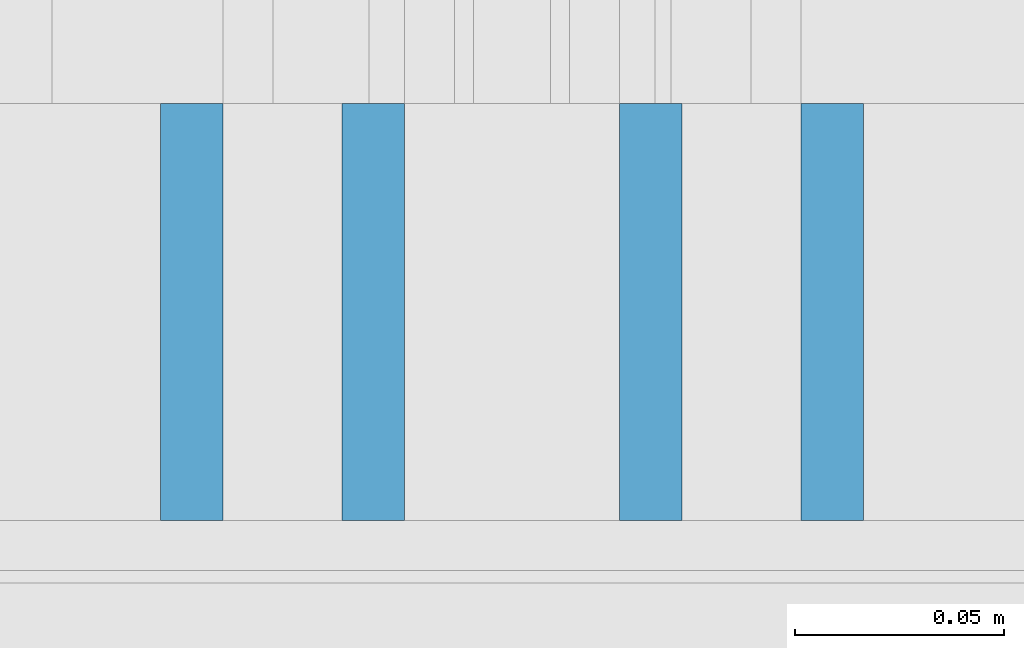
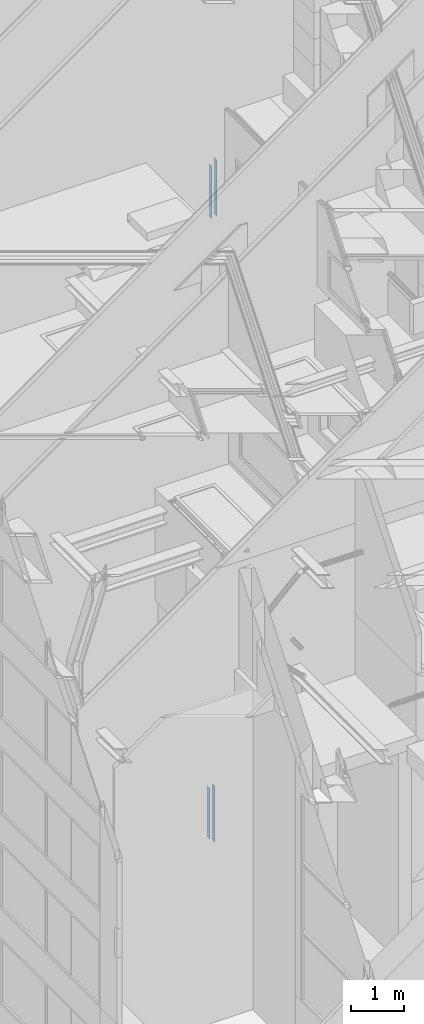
# One storey, part 89 of 583: 4 building element parts, 2 elements without a shape of their own.
"""IFC2X3 building model written with IfcOpenShell, lengths in metres."""

from ifc_helpers import new_model, entity, si_unit, converted_unit, derived_unit, money_unit, direction, frame, origin_with_axes, place, context, subcontext, project, spatial, polyline, outline, extrude, material, type_object, element, aggregate, save


model = new_model("IFC2X3")

# Units and contexts
model_context = context("Model", 3, precision=1e-05, world=origin_with_axes(), true_north=direction((0.0, 1.0)))
body_context = subcontext(model_context, "Body", "Model", "MODEL_VIEW", scale=1.0)
ifc_project = project(units=[si_unit("LENGTHUNIT", "METRE"), si_unit("AREAUNIT", "SQUARE_METRE"), si_unit("VOLUMEUNIT", "CUBIC_METRE"), si_unit("ABSORBEDDOSEUNIT", "GRAY"), si_unit("AMOUNTOFSUBSTANCEUNIT", "MOLE"), si_unit("DOSEEQUIVALENTUNIT", "SIEVERT"), si_unit("ELECTRICCAPACITANCEUNIT", "FARAD"), si_unit("ELECTRICCHARGEUNIT", "COULOMB"), si_unit("ELECTRICCONDUCTANCEUNIT", "SIEMENS"), si_unit("ELECTRICCURRENTUNIT", "AMPERE"), si_unit("ELECTRICRESISTANCEUNIT", "OHM"), si_unit("ELECTRICVOLTAGEUNIT", "VOLT"), si_unit("ENERGYUNIT", "JOULE"), si_unit("FORCEUNIT", "NEWTON"), si_unit("FREQUENCYUNIT", "HERTZ"), si_unit("ILLUMINANCEUNIT", "LUX"), si_unit("INDUCTANCEUNIT", "HENRY"), si_unit("LUMINOUSFLUXUNIT", "LUMEN"), si_unit("LUMINOUSINTENSITYUNIT", "CANDELA"), si_unit("MAGNETICFLUXDENSITYUNIT", "TESLA"), si_unit("MAGNETICFLUXUNIT", "WEBER"), si_unit("MASSUNIT", "GRAM"), converted_unit("PLANEANGLEUNIT", "degree", entity("IfcReal", 0.0174532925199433), si_unit("PLANEANGLEUNIT", "RADIAN"), dimensions=[0, 0, 0, 0, 0, 0, 0]), si_unit("POWERUNIT", "WATT"), si_unit("PRESSUREUNIT", "PASCAL"), si_unit("RADIOACTIVITYUNIT", "BECQUEREL"), si_unit("SOLIDANGLEUNIT", "STERADIAN"), si_unit("THERMODYNAMICTEMPERATUREUNIT", "KELVIN"), si_unit("TIMEUNIT", "SECOND"), derived_unit("ACCELERATIONUNIT", [(si_unit("LENGTHUNIT", "METRE"), 1), (si_unit("TIMEUNIT", "SECOND"), -2)]), derived_unit("ANGULARVELOCITYUNIT", [(converted_unit("PLANEANGLEUNIT", "degree", entity("IfcReal", 0.0174532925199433), si_unit("PLANEANGLEUNIT", "RADIAN"), dimensions=[0, 0, 0, 0, 0, 0, 0]), 1), (si_unit("TIMEUNIT", "SECOND"), -1)]), derived_unit("CURVATUREUNIT", [(converted_unit("PLANEANGLEUNIT", "degree", entity("IfcReal", 0.0174532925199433), si_unit("PLANEANGLEUNIT", "RADIAN"), dimensions=[0, 0, 0, 0, 0, 0, 0]), 1), (si_unit("LENGTHUNIT", "METRE"), -1)]), derived_unit("DYNAMICVISCOSITYUNIT", [(si_unit("PRESSUREUNIT", "PASCAL"), 1), (si_unit("TIMEUNIT", "SECOND"), 1)]), derived_unit("HEATFLUXDENSITYUNIT", [(si_unit("POWERUNIT", "WATT"), 1), (si_unit("LENGTHUNIT", "METRE"), -2)]), derived_unit("HEATINGVALUEUNIT", [(si_unit("ENERGYUNIT", "JOULE"), 1), (si_unit("MASSUNIT", "GRAM"), -1)]), derived_unit("INTEGERCOUNTRATEUNIT", [(si_unit("TIMEUNIT", "SECOND"), -1)]), derived_unit("IONCONCENTRATIONUNIT", [(si_unit("MASSUNIT", "GRAM"), 1), (si_unit("VOLUMEUNIT", "CUBIC_METRE"), -1)]), derived_unit("ISOTHERMALMOISTURECAPACITYUNIT", [(si_unit("VOLUMEUNIT", "CUBIC_METRE"), 1), (si_unit("MASSUNIT", "GRAM"), -1)]), derived_unit("KINEMATICVISCOSITYUNIT", [(si_unit("AREAUNIT", "SQUARE_METRE"), 1), (si_unit("TIMEUNIT", "SECOND"), -1)]), derived_unit("LINEARFORCEUNIT", [(si_unit("FORCEUNIT", "NEWTON"), 1), (si_unit("LENGTHUNIT", "METRE"), -1)]), derived_unit("LINEARMOMENTUNIT", [(si_unit("FORCEUNIT", "NEWTON"), 1), (si_unit("LENGTHUNIT", "METRE"), -1)]), derived_unit("LINEARSTIFFNESSUNIT", [(si_unit("FORCEUNIT", "NEWTON"), 1), (si_unit("LENGTHUNIT", "METRE"), -1)]), derived_unit("LINEARVELOCITYUNIT", [(si_unit("LENGTHUNIT", "METRE"), 1), (si_unit("TIMEUNIT", "SECOND"), -1)]), derived_unit("LUMINOUSINTENSITYDISTRIBUTIONUNIT", [(si_unit("LUMINOUSINTENSITYUNIT", "CANDELA"), 1), (si_unit("LUMINOUSFLUXUNIT", "LUMEN"), -1)]), derived_unit("MASSDENSITYUNIT", [(si_unit("MASSUNIT", "GRAM"), 1), (si_unit("VOLUMEUNIT", "CUBIC_METRE"), -1)]), derived_unit("MASSFLOWRATEUNIT", [(si_unit("MASSUNIT", "GRAM"), 1), (si_unit("TIMEUNIT", "SECOND"), -1)]), derived_unit("MASSPERLENGTHUNIT", [(si_unit("MASSUNIT", "GRAM"), 1), (si_unit("LENGTHUNIT", "METRE"), -1)]), derived_unit("MODULUSOFELASTICITYUNIT", [(si_unit("FORCEUNIT", "NEWTON"), 1), (si_unit("AREAUNIT", "SQUARE_METRE"), -1)]), derived_unit("MODULUSOFLINEARSUBGRADEREACTIONUNIT", [(si_unit("FORCEUNIT", "NEWTON"), 1), (si_unit("LENGTHUNIT", "METRE"), -2)]), derived_unit("MODULUSOFROTATIONALSUBGRADEREACTIONUNIT", [(si_unit("FORCEUNIT", "NEWTON"), 1), (si_unit("LENGTHUNIT", "METRE"), 1)]), derived_unit("MODULUSOFSUBGRADEREACTIONUNIT", [(si_unit("FORCEUNIT", "NEWTON"), 1), (si_unit("VOLUMEUNIT", "CUBIC_METRE"), -1)]), derived_unit("MOISTUREDIFFUSIVITYUNIT", [(si_unit("VOLUMEUNIT", "CUBIC_METRE"), 1), (si_unit("TIMEUNIT", "SECOND"), -1)]), derived_unit("MOLECULARWEIGHTUNIT", [(si_unit("MASSUNIT", "GRAM"), 1), (si_unit("AMOUNTOFSUBSTANCEUNIT", "MOLE"), -1)]), derived_unit("PLANARFORCEUNIT", [(si_unit("FORCEUNIT", "NEWTON"), 1), (si_unit("LENGTHUNIT", "METRE"), -2)]), derived_unit("ROTATIONALFREQUENCYUNIT", [(si_unit("TIMEUNIT", "SECOND"), -1)]), derived_unit("ROTATIONALMASSUNIT", [(si_unit("MASSUNIT", "GRAM"), 1), (si_unit("LENGTHUNIT", "METRE"), 2)]), derived_unit("ROTATIONALSTIFFNESSUNIT", [(si_unit("FORCEUNIT", "NEWTON"), 1), (si_unit("LENGTHUNIT", "METRE"), 1), (converted_unit("PLANEANGLEUNIT", "degree", entity("IfcReal", 0.0174532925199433), si_unit("PLANEANGLEUNIT", "RADIAN"), dimensions=[0, 0, 0, 0, 0, 0, 0]), -1)]), derived_unit("SECTIONAREAINTEGRALUNIT", [(si_unit("LENGTHUNIT", "METRE"), 5)]), derived_unit("SECTIONMODULUSUNIT", [(si_unit("LENGTHUNIT", "METRE"), 3)]), derived_unit("SHEARMODULUSUNIT", [(si_unit("FORCEUNIT", "NEWTON"), 1), (si_unit("AREAUNIT", "SQUARE_METRE"), -1)]), derived_unit("SOUNDPOWERUNIT", [(si_unit("ENERGYUNIT", "JOULE"), 1), (si_unit("TIMEUNIT", "SECOND"), -1)]), derived_unit("SPECIFICHEATCAPACITYUNIT", [(si_unit("FORCEUNIT", "NEWTON"), 1), (si_unit("MASSUNIT", "GRAM"), -1), (si_unit("THERMODYNAMICTEMPERATUREUNIT", "KELVIN"), -1)]), derived_unit("TEMPERATUREGRADIENTUNIT", [(si_unit("THERMODYNAMICTEMPERATUREUNIT", "KELVIN"), 1), (si_unit("LENGTHUNIT", "METRE"), -1)]), derived_unit("THERMALADMITTANCEUNIT", [(si_unit("POWERUNIT", "WATT"), 1), (si_unit("AREAUNIT", "SQUARE_METRE"), -1), (si_unit("THERMODYNAMICTEMPERATUREUNIT", "KELVIN"), -1)]), derived_unit("THERMALCONDUCTANCEUNIT", [(si_unit("POWERUNIT", "WATT"), 1), (si_unit("LENGTHUNIT", "METRE"), -1), (si_unit("THERMODYNAMICTEMPERATUREUNIT", "KELVIN"), -1)]), derived_unit("THERMALEXPANSIONCOEFFICIENTUNIT", [(si_unit("THERMODYNAMICTEMPERATUREUNIT", "KELVIN"), -1)]), derived_unit("THERMALRESISTANCEUNIT", [(si_unit("AREAUNIT", "SQUARE_METRE"), 1), (si_unit("POWERUNIT", "WATT"), -1)]), derived_unit("THERMALTRANSMITTANCEUNIT", [(si_unit("POWERUNIT", "WATT"), 1), (si_unit("AREAUNIT", "SQUARE_METRE"), -1), (si_unit("THERMODYNAMICTEMPERATUREUNIT", "KELVIN"), -1)]), derived_unit("TORQUEUNIT", [(si_unit("FORCEUNIT", "NEWTON"), 1), (si_unit("LENGTHUNIT", "METRE"), 1)]), derived_unit("VAPORPERMEABILITYUNIT", [(si_unit("MASSUNIT", "GRAM"), 1), (si_unit("TIMEUNIT", "SECOND"), -1)]), derived_unit("VOLUMETRICFLOWRATEUNIT", [(si_unit("VOLUMEUNIT", "CUBIC_METRE"), 1), (si_unit("TIMEUNIT", "SECOND"), -1)]), derived_unit("WARPINGCONSTANTUNIT", [(si_unit("LENGTHUNIT", "METRE"), 6)]), derived_unit("WARPINGMOMENTUNIT", [(si_unit("FORCEUNIT", "NEWTON"), 1), (si_unit("LENGTHUNIT", "METRE"), 2)]), money_unit("GBP")], contexts=[model_context])

# Site, building, storey
site_placement = place(None, origin_with_axes())
site = spatial("IfcSite", under=ifc_project, at=site_placement, Name="Site", CompositionType="ELEMENT")
building_placement = place(site_placement, origin_with_axes())
building = spatial("IfcBuilding", under=site, at=building_placement, Name="Building01", CompositionType="ELEMENT")
storey_placement = place(building_placement, frame((0.0, 0.0, 20.78), z_axis=(0.0, 0.0, 1.0), x_axis=(1.0, 0.0, 0.0)))
storey = spatial("IfcBuildingStorey", under=building, at=storey_placement, Name="RL", CompositionType="ELEMENT", Elevation=20.78)

# Wall, building element parts
wall_type = type_object("IfcWallType", Name="SHE_A-Walls_Type05a_Partition_95mm_tall", PredefinedType="NOTDEFINED")
wall_1_placement = place(storey_placement, frame((7.215, 12.13, 0.602661), z_axis=(0.0, 1.0, 0.0), x_axis=(0.0, 0.0, -1.0)))
wall_1 = element("IfcWall", 1, at=wall_1_placement, inside=storey, type_object=wall_type, Name="5A", ObjectType="SHE_A-Walls_Type05a_Partition_95mm_tall")
ifc_material = material(Name="A_BSUK_Walls_Timber")
placement_1 = place(wall_1_placement, origin_with_axes())
building_element_part_1 = element("IfcBuildingElementPart", 2, at=placement_1, material=ifc_material, Name="2", context=body_context, shape_type="SweptSolid", body=[
    extrude(outline(polyline([(1.26, 0.075), (0.075, 0.075), (0.06, 0.06), (1.26, 0.06), (1.26, 0.075)])), frame((0.0, 0.0, 0.015), z_axis=(0.0, 0.0, 1.0), x_axis=(1.0, 0.0, 0.0)), (0.0, 0.0, 1.0), 0.1),
])
building_element_part_2 = element("IfcBuildingElementPart", 3, at=placement_1, material=ifc_material, Name="3", context=body_context, shape_type="SweptSolid", body=[
    extrude(outline(polyline([(1.245, -0.035), (-0.035, -0.035), (-0.05, -0.05), (1.245, -0.05), (1.245, -0.035)])), frame((0.0, 0.0, 0.015), z_axis=(0.0, 0.0, 1.0), x_axis=(1.0, 0.0, 0.0)), (0.0, 0.0, 1.0), 0.1),
])
aggregate(wall_1, [building_element_part_1, building_element_part_2])

wall_2_placement = place(storey_placement, frame((7.171475, 12.13, -14.975331), z_axis=(0.0, 1.0, 0.0), x_axis=(0.0, 0.0, 1.0)))
wall_2 = element("IfcWall", 4, at=wall_2_placement, inside=storey, type_object=wall_type, Name="5A", ObjectType="SHE_A-Walls_Type05a_Partition_95mm_tall")
placement_2 = place(wall_2_placement, origin_with_axes())
building_element_part_3 = element("IfcBuildingElementPart", 5, at=placement_2, material=ifc_material, Name="2", context=body_context, shape_type="SweptSolid", body=[
    extrude(outline(polyline([(1.245, -0.06), (0.06, -0.06), (0.075, -0.075), (1.245, -0.075), (1.245, -0.06)])), frame((0.0, 0.0, 0.015), z_axis=(0.0, 0.0, 1.0), x_axis=(1.0, 0.0, 0.0)), (0.0, 0.0, 1.0), 0.1),
])
building_element_part_4 = element("IfcBuildingElementPart", 6, at=placement_2, material=ifc_material, Name="3", context=body_context, shape_type="SweptSolid", body=[
    extrude(outline(polyline([(1.245, 0.05), (-0.05, 0.05), (-0.035, 0.035), (1.245, 0.035), (1.245, 0.05)])), frame((0.0, 0.0, 0.015), z_axis=(0.0, 0.0, 1.0), x_axis=(1.0, 0.0, 0.0)), (0.0, 0.0, 1.0), 0.1),
])
aggregate(wall_2, [building_element_part_3, building_element_part_4])

save(model, "model.ifc")
